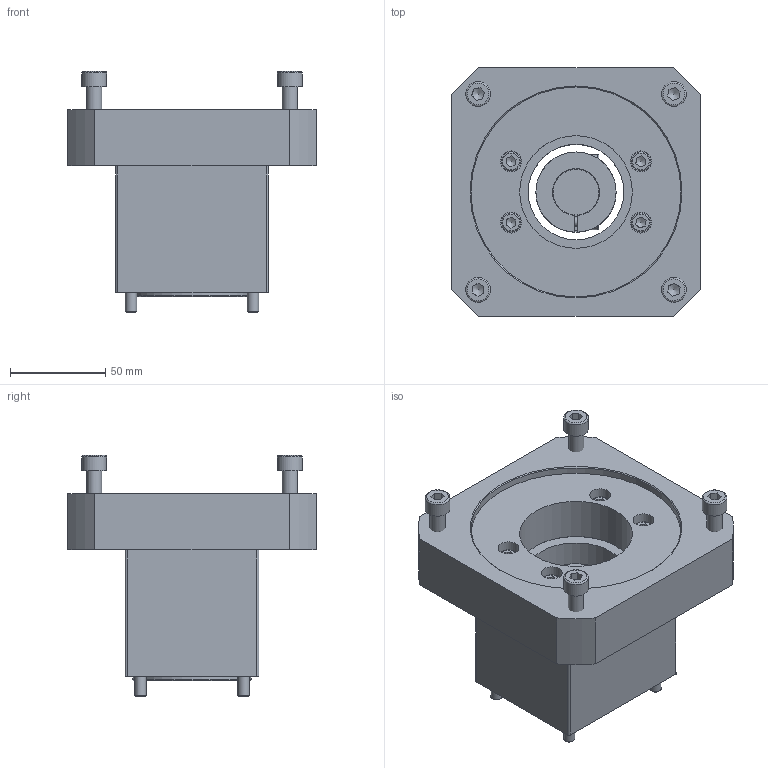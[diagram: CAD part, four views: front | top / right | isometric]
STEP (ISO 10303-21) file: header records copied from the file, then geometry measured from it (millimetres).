
FILE_DESCRIPTION(/* description */ ('EAMK-A O-Coupling housing'),/* implementation_level */ '2;1');
FILE_NAME(/* name */ 'C:\STORE\ホームページ用データ\\X2\30E230FC30BF53D64ED830AD30C330C8\X0\_2016_2016.10.06_\X2\30AB30BF30ED30B065398A025206\X0\\3D_STEP\J09819.stp',/* time_stamp */ '2016-10-19T14:35:56+09:00',/* author */ ('jp0tot'),/* organization */ ('FESTO'),/* preprocessor_version */ 'ST-DEVELOPER v15.6',/* originating_system */ 'Autodesk Inventor 2015',/* authorisation */ '');
FILE_SCHEMA (('AUTOMOTIVE_DESIGN { 1 0 10303 214 3 1 1 }'));
Length unit declared in the file: millimetre
Products named in the file (8): 3637940 EAMK-A-S62-62A_B-G2---(1O); DIN-912 - M6x70(F); 3637940 EAMK-A-S62-62A_B-G2; 558314 EAMC-42-50-12-24; J08086; コピー版 JIS B 1176 - M8 x 25; コピー版 JIS B 1176 - M6 x 25; J09819
Bounding box: 130 x 130 x 126.3 mm (x, y, z)
Volume: 682764.6 mm3; surface area: 126720 mm2
Topology: 15 solids, 15 shells, 382 faces, 841 edges, 525 vertices
Faces by surface type: plane 190, cone 95, cylinder 79, torus 18
Full cylindrical faces by diameter (mm): 4.917 x4, 5 x4, 6 x8, 6.5 x4, 6.6 x4, 6.647 x4, 8 x4, 8.5 x2, 10 x8, 11 x8, 13 x4, 40 x2, 42 x1, 50 x1, 59 x1, 62 x3, 110 x1
Entity records: 5639 total; most frequent: CARTESIAN_POINT 1093, DIRECTION 962, ORIENTED_EDGE 738, AXIS2_PLACEMENT_3D 407, EDGE_CURVE 369, EDGE_LOOP 347, VERTEX_POINT 280, FACE_OUTER_BOUND 208
